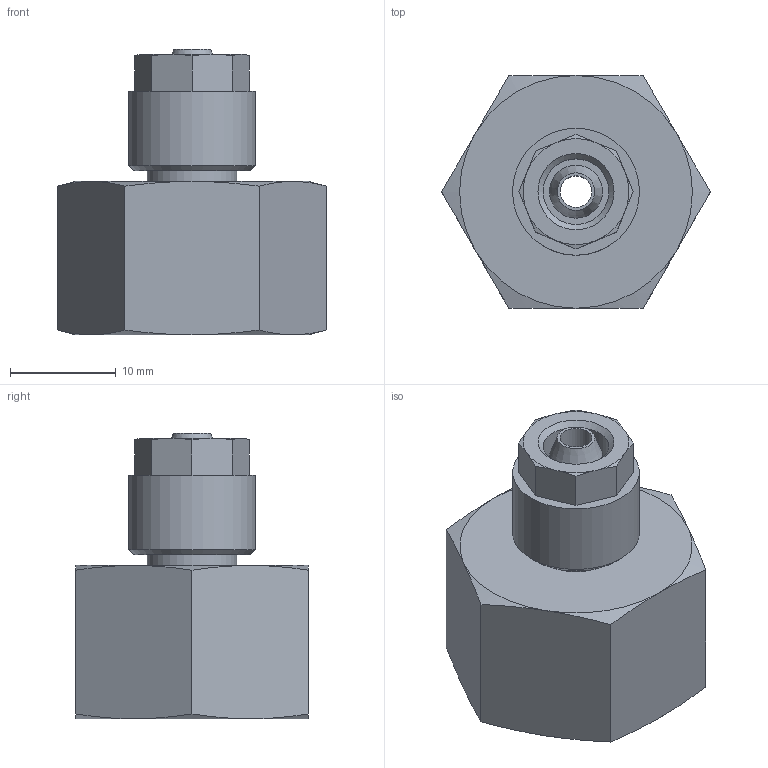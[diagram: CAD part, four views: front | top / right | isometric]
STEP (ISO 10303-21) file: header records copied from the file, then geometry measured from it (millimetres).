
FILE_DESCRIPTION(/* description */ (''),/* implementation_level */ '2;1');
FILE_NAME(/* name */ '10304_302_64_G38_31.08.16',/* time_stamp */ '2016-08-31T09:04:29+02:00',/* author */ (''),/* organization */ (''),/* preprocessor_version */ 'ST-DEVELOPER v16.5',/* originating_system */ 'HiCAD 2016 2101.0 Build 254',/* authorisation */ '');
FILE_SCHEMA (('AUTOMOTIVE_DESIGN { 1 0 10303 214 1 1 1 1 }'));
Length unit declared in the file: millimetre
Products named in the file (3): Root; 17005; R10304
Assembly tree (2 placements, depth 2):
  Root
    17005
    R10304
Bounding box: 25.4 x 22 x 27 mm (x, y, z)
Volume: 5090 mm3; surface area: 3661 mm2
Topology: 2 solids, 2 shells, 60 faces, 133 edges, 82 vertices
Faces by surface type: cone 28, plane 23, cylinder 8, torus 1
Full cylindrical faces by diameter (mm): 3 x1, 4.5 x1, 6.2 x1, 8.5 x1, 8.773 x1, 10 x1, 12 x1, 14.95 x1
Entity records: 2633 total; most frequent: DIRECTION 318, CARTESIAN_POINT 242, PRESENTATION_STYLE_ASSIGNMENT 214, COLOUR_RGB 213, DRAUGHTING_PRE_DEFINED_CURVE_FONT 212, CURVE_STYLE 212, OVER_RIDING_STYLED_ITEM 212, ORIENTED_EDGE 212
